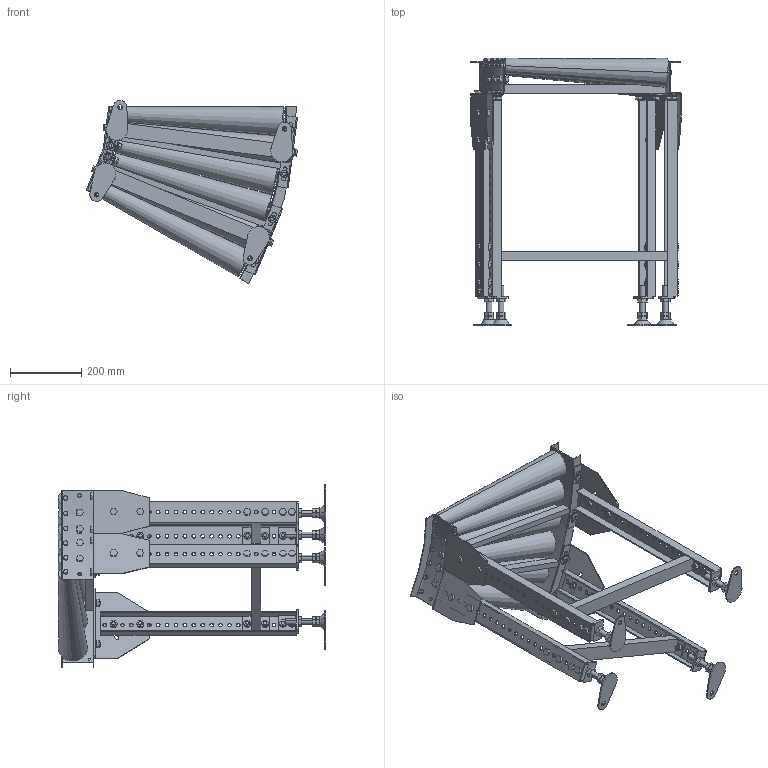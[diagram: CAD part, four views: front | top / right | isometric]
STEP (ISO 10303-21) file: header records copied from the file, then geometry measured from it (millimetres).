
FILE_DESCRIPTION (( 'STEP AP214' ), '1' );
FILE_NAME ('MRT-C5-450-50-30.STEP', '2022-09-27T09:21:40', ( '' ), ( '' ), 'SwSTEP 2.0', 'SolidWorks 2017', '' );
FILE_SCHEMA (( 'AUTOMOTIVE_DESIGN' ));
Length unit declared in the file: millimetre
Products named in the file (1): MRT-C5-450-50-30
Bounding box: 591.77 x 750 x 514.18 mm (x, y, z)
Volume: 11833384.7 mm3; surface area: 1812371.4 mm2
Topology: 19 solids, 41 shells, 1979 faces, 4730 edges, 2972 vertices
Faces by surface type: plane 1453, cylinder 506, cone 20
Entity records: 81801 total; most frequent: CARTESIAN_POINT 12570, DIRECTION 10106, ORIENTED_EDGE 9460, EDGE_CURVE 4730, AXIS2_PLACEMENT_3D 3496, LINE 3114, VECTOR 3114, VERTEX_POINT 2972
